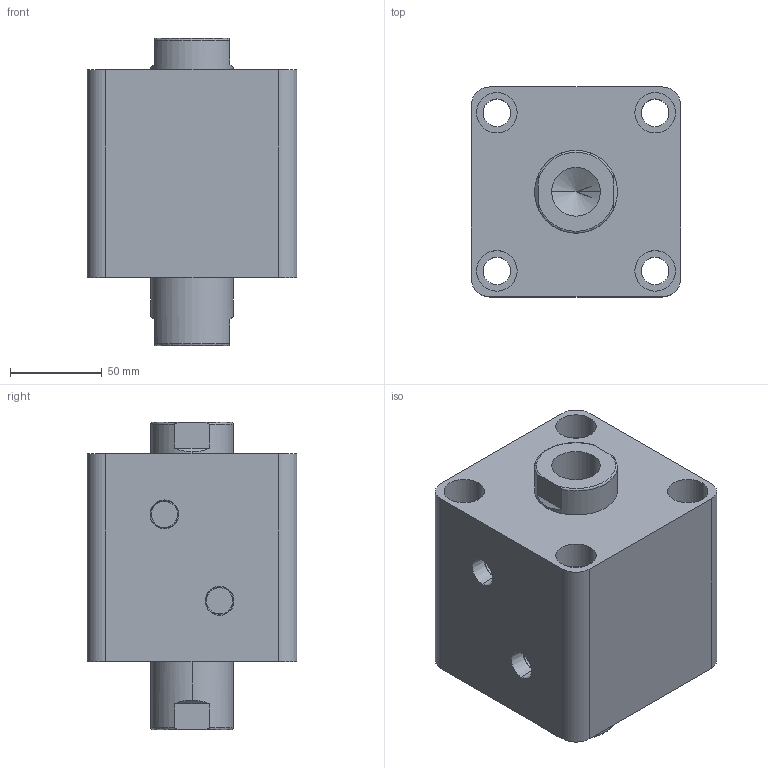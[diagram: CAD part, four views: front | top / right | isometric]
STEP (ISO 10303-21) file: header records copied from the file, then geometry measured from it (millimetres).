
FILE_DESCRIPTION (( 'STEP AP203' ), '1' );
FILE_NAME ('HTB-SW80-20N.STEP', '2019-10-07T10:20:22', ( '微软用户' ), ( '微软中国' ), 'SwSTEP 2.0', 'SolidWorks 2012', '' );
FILE_SCHEMA (( 'CONFIG_CONTROL_DESIGN' ));
Length unit declared in the file: millimetre
Products named in the file (3): HTB-SW80-20N; HTB-SW80-20N活塞杆; HTB-SW80-20掛极
Assembly tree (2 placements, depth 2):
  HTB-SW80-20N
    HTB-SW80-20掛极
    HTB-SW80-20N活塞杆
Bounding box: 114 x 114 x 167 mm (x, y, z)
Volume: 1335657.7 mm3; surface area: 165552.4 mm2
Topology: 2 solids, 2 shells, 100 faces, 228 edges, 146 vertices
Faces by surface type: cylinder 48, plane 32, torus 12, cone 8
Entity records: 3237 total; most frequent: CARTESIAN_POINT 595, DIRECTION 542, ORIENTED_EDGE 448, AXIS2_PLACEMENT_3D 229, EDGE_CURVE 224, VERTEX_POINT 146, EDGE_LOOP 128, CIRCLE 124
